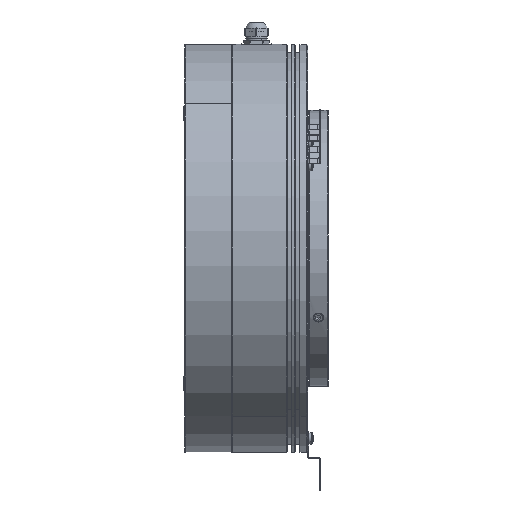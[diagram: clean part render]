
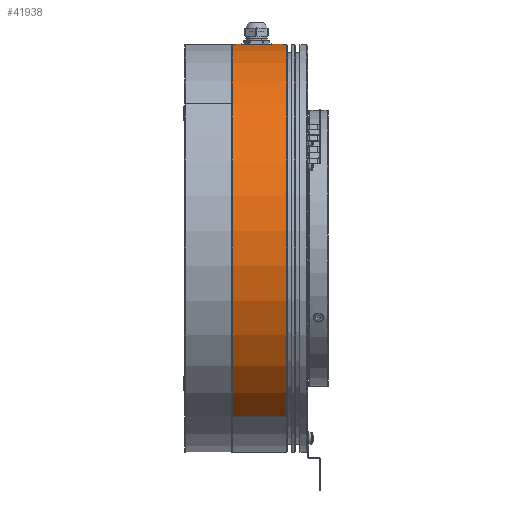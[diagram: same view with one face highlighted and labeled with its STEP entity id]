
A CAD part, left-side view. The second image highlights one B-rep face of the part: STEP entity #41938.
In plain terms, the highlighted cylindrical face has radius 100 mm (diameter 200 mm), a partial arc.
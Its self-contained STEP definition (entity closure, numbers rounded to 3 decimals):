
#155 = DIRECTION ( 'NONE',  ( 0., -1., 0. ) ) ;
#402 = CARTESIAN_POINT ( 'NONE',  ( -57.358, 10.2, -81.915 ) ) ;
#741 = EDGE_CURVE ( 'NONE', #11848, #4257, #3282, .T. ) ;
#1210 = DIRECTION ( 'NONE',  ( 0., -1., 0. ) ) ;
#2662 = FACE_OUTER_BOUND ( 'NONE', #8575, .T. ) ;
#3282 = LINE ( 'NONE', #11065, #7333 ) ;
#3326 = AXIS2_PLACEMENT_3D ( 'NONE', #27129, #23559, #16849 ) ;
#4003 = EDGE_CURVE ( 'NONE', #45553, #30229, #7871, .T. ) ;
#4026 = ORIENTED_EDGE ( 'NONE', *, *, #27663, .F. ) ;
#4257 = VERTEX_POINT ( 'NONE', #402 ) ;
#5392 = ORIENTED_EDGE ( 'NONE', *, *, #25740, .T. ) ;
#5778 = DIRECTION ( 'NONE',  ( 0.574, 0., 0.819 ) ) ;
#6881 = AXIS2_PLACEMENT_3D ( 'NONE', #12374, #26672, #5778 ) ;
#7333 = VECTOR ( 'NONE', #18183, 1000. ) ;
#7871 = LINE ( 'NONE', #33761, #34701 ) ;
#8575 = EDGE_LOOP ( 'NONE', ( #26919, #10282, #22824, #4026 ) ) ;
#9293 = DIRECTION ( 'NONE',  ( 0.574, 0., 0.819 ) ) ;
#9769 = FACE_BOUND ( 'NONE', #30461, .T. ) ;
#9775 = CARTESIAN_POINT ( 'NONE',  ( -7.5, 17.5, 99.718 ) ) ;
#10163 = LINE ( 'NONE', #43253, #13692 ) ;
#10282 = ORIENTED_EDGE ( 'NONE', *, *, #741, .T. ) ;
#10521 = DIRECTION ( 'NONE',  ( 0.574, 0., 0.819 ) ) ;
#11065 = CARTESIAN_POINT ( 'NONE',  ( -57.358, 0., -81.915 ) ) ;
#11302 = ORIENTED_EDGE ( 'NONE', *, *, #4003, .F. ) ;
#11848 = VERTEX_POINT ( 'NONE', #43868 ) ;
#12374 = CARTESIAN_POINT ( 'NONE',  ( 0., 32.5, 0. ) ) ;
#13692 = VECTOR ( 'NONE', #32535, 1000. ) ;
#14546 = ORIENTED_EDGE ( 'NONE', *, *, #39596, .T. ) ;
#16849 = DIRECTION ( 'NONE',  ( 0.574, 0., 0.819 ) ) ;
#18183 = DIRECTION ( 'NONE',  ( 0., -1., 0. ) ) ;
#19159 = CIRCLE ( 'NONE', #3326, 100. ) ;
#19491 = CARTESIAN_POINT ( 'NONE',  ( 57.358, 10.2, 81.915 ) ) ;
#20853 = CARTESIAN_POINT ( 'NONE',  ( 7.5, 32.5, 99.718 ) ) ;
#21867 = ORIENTED_EDGE ( 'NONE', *, *, #22243, .F. ) ;
#22243 = EDGE_CURVE ( 'NONE', #31343, #45553, #27341, .T. ) ;
#22310 = CARTESIAN_POINT ( 'NONE',  ( 7.5, 17.5, 99.718 ) ) ;
#22824 = ORIENTED_EDGE ( 'NONE', *, *, #25131, .T. ) ;
#23559 = DIRECTION ( 'NONE',  ( 0., -1., 0. ) ) ;
#25131 = EDGE_CURVE ( 'NONE', #4257, #32160, #28067, .T. ) ;
#25740 = EDGE_CURVE ( 'NONE', #31343, #33571, #10163, .T. ) ;
#25875 = CARTESIAN_POINT ( 'NONE',  ( 57.358, 36.8, 81.915 ) ) ;
#26672 = DIRECTION ( 'NONE',  ( 0., -1., 0. ) ) ;
#26919 = ORIENTED_EDGE ( 'NONE', *, *, #30323, .T. ) ;
#27129 = CARTESIAN_POINT ( 'NONE',  ( 0., 36.8, 0. ) ) ;
#27341 = CIRCLE ( 'NONE', #6881, 100. ) ;
#27357 = CARTESIAN_POINT ( 'NONE',  ( 0., 0., 0. ) ) ;
#27663 = EDGE_CURVE ( 'NONE', #43280, #32160, #32721, .T. ) ;
#28067 = CIRCLE ( 'NONE', #40253, 100. ) ;
#28121 = CARTESIAN_POINT ( 'NONE',  ( 0., 17.5, 0. ) ) ;
#28594 = DIRECTION ( 'NONE',  ( 0., -1., 0. ) ) ;
#30229 = VERTEX_POINT ( 'NONE', #9775 ) ;
#30323 = EDGE_CURVE ( 'NONE', #43280, #11848, #19159, .T. ) ;
#30461 = EDGE_LOOP ( 'NONE', ( #21867, #5392, #14546, #11302 ) ) ;
#30614 = DIRECTION ( 'NONE',  ( -0.574, 0., -0.819 ) ) ;
#31343 = VERTEX_POINT ( 'NONE', #20853 ) ;
#31945 = CARTESIAN_POINT ( 'NONE',  ( -7.5, 32.5, 99.718 ) ) ;
#32160 = VERTEX_POINT ( 'NONE', #19491 ) ;
#32316 = AXIS2_PLACEMENT_3D ( 'NONE', #28121, #28594, #10521 ) ;
#32535 = DIRECTION ( 'NONE',  ( 0., -1., 0. ) ) ;
#32721 = LINE ( 'NONE', #46561, #43520 ) ;
#33571 = VERTEX_POINT ( 'NONE', #22310 ) ;
#33708 = CARTESIAN_POINT ( 'NONE',  ( 0., 10.2, 0. ) ) ;
#33761 = CARTESIAN_POINT ( 'NONE',  ( -7.5, 32.5, 99.718 ) ) ;
#34200 = AXIS2_PLACEMENT_3D ( 'NONE', #27357, #41887, #9293 ) ;
#34701 = VECTOR ( 'NONE', #1210, 1000. ) ;
#37082 = DIRECTION ( 'NONE',  ( 0., 1., 0. ) ) ;
#39596 = EDGE_CURVE ( 'NONE', #33571, #30229, #46812, .T. ) ;
#40253 = AXIS2_PLACEMENT_3D ( 'NONE', #33708, #37082, #30614 ) ;
#41887 = DIRECTION ( 'NONE',  ( 0., -1., 0. ) ) ;
#41938 = ADVANCED_FACE ( 'NONE', ( #9769, #2662 ), #42605, .T. ) ;
#42605 = CYLINDRICAL_SURFACE ( 'NONE', #34200, 100. ) ;
#43253 = CARTESIAN_POINT ( 'NONE',  ( 7.5, 32.5, 99.718 ) ) ;
#43280 = VERTEX_POINT ( 'NONE', #25875 ) ;
#43520 = VECTOR ( 'NONE', #155, 1000. ) ;
#43868 = CARTESIAN_POINT ( 'NONE',  ( -57.358, 36.8, -81.915 ) ) ;
#45553 = VERTEX_POINT ( 'NONE', #31945 ) ;
#46561 = CARTESIAN_POINT ( 'NONE',  ( 57.358, 0., 81.915 ) ) ;
#46812 = CIRCLE ( 'NONE', #32316, 100. ) ;
